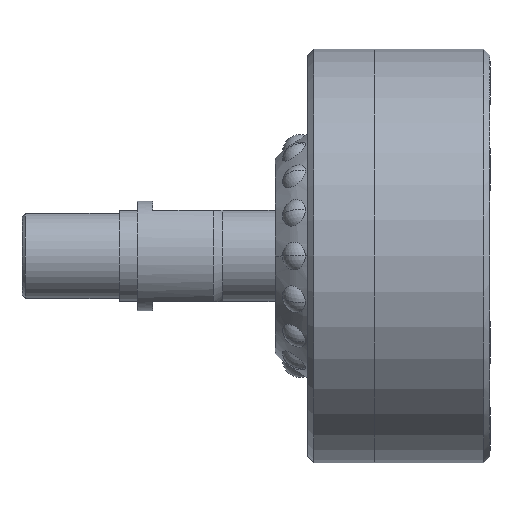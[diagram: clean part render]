
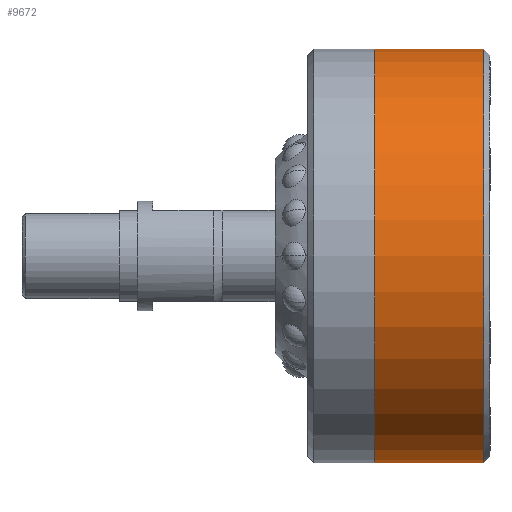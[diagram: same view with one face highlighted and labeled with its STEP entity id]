
A CAD part, front view. The second image highlights one B-rep face of the part: STEP entity #9672.
In plain terms, the highlighted cylindrical face has radius 68 mm (diameter 136 mm), a partial arc.
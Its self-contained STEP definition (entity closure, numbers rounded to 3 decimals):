
#1325 = AXIS2_PLACEMENT_3D ( 'NONE', #9147, #9148, #9149 ) ;
#1678 = AXIS2_PLACEMENT_3D ( 'NONE', #3475, #3476, #3477 ) ;
#1679 = AXIS2_PLACEMENT_3D ( 'NONE', #3478, #3479, #3480 ) ;
#2771 = LINE ( 'NONE', #3361, #2773 ) ;
#2773 = VECTOR ( 'NONE', #3362, 1000. ) ;
#2774 = LINE ( 'NONE', #3366, #2776 ) ;
#2776 = VECTOR ( 'NONE', #3367, 1000. ) ;
#2826 = CIRCLE ( 'NONE', #1678, 68. ) ;
#2827 = CIRCLE ( 'NONE', #1679, 68. ) ;
#3361 = CARTESIAN_POINT ( 'NONE',  ( 0., 0., -68. ) ) ;
#3362 = DIRECTION ( 'NONE',  ( -1., 0., 0. ) ) ;
#3366 = CARTESIAN_POINT ( 'NONE',  ( 0., 0., 68. ) ) ;
#3367 = DIRECTION ( 'NONE',  ( -1., 0., 0. ) ) ;
#3475 = CARTESIAN_POINT ( 'NONE',  ( 36., 0., 0. ) ) ;
#3476 = DIRECTION ( 'NONE',  ( -1., 0., 0. ) ) ;
#3477 = DIRECTION ( 'NONE',  ( 0., 0., 1. ) ) ;
#3478 = CARTESIAN_POINT ( 'NONE',  ( 0., 0., 0. ) ) ;
#3479 = DIRECTION ( 'NONE',  ( -1., 0., 0. ) ) ;
#3480 = DIRECTION ( 'NONE',  ( 0., 0., 1. ) ) ;
#6624 = ORIENTED_EDGE ( 'NONE', *, *, #10165, .F. ) ;
#6626 = ORIENTED_EDGE ( 'NONE', *, *, #10124, .T. ) ;
#6628 = ORIENTED_EDGE ( 'NONE', *, *, #10164, .T. ) ;
#6631 = ORIENTED_EDGE ( 'NONE', *, *, #10122, .F. ) ;
#6673 = VERTEX_POINT ( 'NONE', #8023 ) ;
#6674 = VERTEX_POINT ( 'NONE', #8024 ) ;
#6749 = VERTEX_POINT ( 'NONE', #8030 ) ;
#6782 = VERTEX_POINT ( 'NONE', #8033 ) ;
#7313 = FACE_OUTER_BOUND ( 'NONE', #10889, .T. ) ;
#7314 = CYLINDRICAL_SURFACE ( 'NONE', #1325, 68. ) ;
#8023 = CARTESIAN_POINT ( 'NONE',  ( 36., 0., 68. ) ) ;
#8024 = CARTESIAN_POINT ( 'NONE',  ( 36., 0., -68. ) ) ;
#8030 = CARTESIAN_POINT ( 'NONE',  ( 0., 0., 68. ) ) ;
#8033 = CARTESIAN_POINT ( 'NONE',  ( 0., 0., -68. ) ) ;
#9147 = CARTESIAN_POINT ( 'NONE',  ( 0., 0., 0. ) ) ;
#9148 = DIRECTION ( 'NONE',  ( -1., 0., 0. ) ) ;
#9149 = DIRECTION ( 'NONE',  ( 0., 0., 1. ) ) ;
#9672 = ADVANCED_FACE ( 'NONE', ( #7313 ), #7314, .T. ) ;
#10122 = EDGE_CURVE ( 'NONE', #6674, #6782, #2771, .T. ) ;
#10124 = EDGE_CURVE ( 'NONE', #6673, #6749, #2774, .T. ) ;
#10164 = EDGE_CURVE ( 'NONE', #6674, #6673, #2826, .T. ) ;
#10165 = EDGE_CURVE ( 'NONE', #6782, #6749, #2827, .T. ) ;
#10889 = EDGE_LOOP ( 'NONE', ( #6631, #6628, #6626, #6624 ) ) ;
